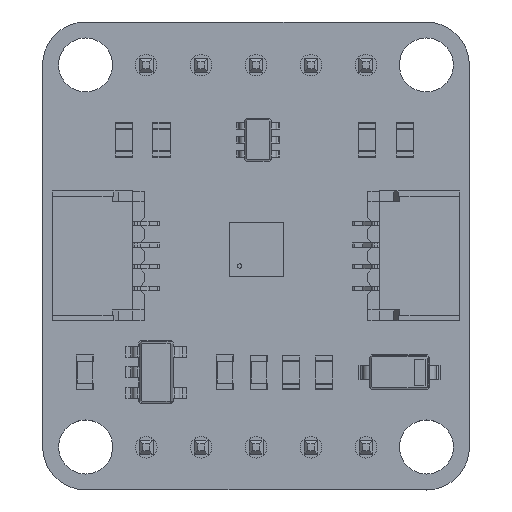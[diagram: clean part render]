
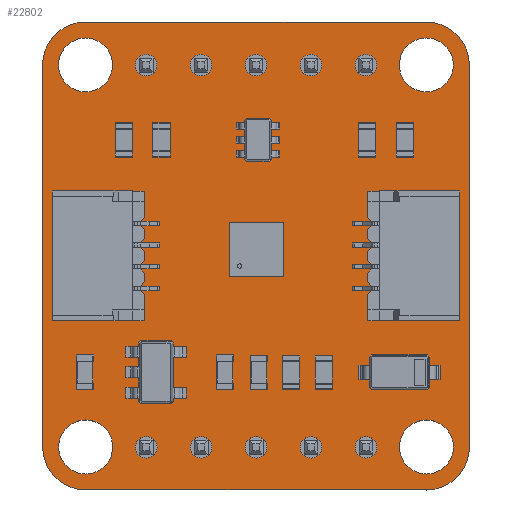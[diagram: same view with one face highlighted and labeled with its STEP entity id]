
A CAD part, top view. The second image highlights one B-rep face of the part: STEP entity #22802.
In plain terms, the highlighted planar face has unit normal (0, 0, 1).
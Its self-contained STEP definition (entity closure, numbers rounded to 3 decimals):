
#22499 = VERTEX_POINT('',#22500);
#22500 = CARTESIAN_POINT('',(154.494,-58.801,1.6));
#22506 = EDGE_CURVE('',#22499,#22507,#22509,.T.);
#22507 = VERTEX_POINT('',#22508);
#22508 = CARTESIAN_POINT('',(156.48,-60.787,1.6));
#22509 = CIRCLE('',#22510,1.986);
#22510 = AXIS2_PLACEMENT_3D('',#22511,#22512,#22513);
#22511 = CARTESIAN_POINT('',(154.494,-60.787,1.6));
#22512 = DIRECTION('',(0.,0.,-1.));
#22513 = DIRECTION('',(0.,1.,0.));
#22541 = VERTEX_POINT('',#22542);
#22542 = CARTESIAN_POINT('',(138.735,-58.801,1.6));
#22548 = EDGE_CURVE('',#22541,#22499,#22549,.T.);
#22549 = LINE('',#22550,#22551);
#22550 = CARTESIAN_POINT('',(138.735,-58.801,1.6));
#22551 = VECTOR('',#22552,1.);
#22552 = DIRECTION('',(1.,0.,0.));
#22570 = EDGE_CURVE('',#22507,#22571,#22573,.T.);
#22571 = VERTEX_POINT('',#22572);
#22572 = CARTESIAN_POINT('',(156.486,-78.452,1.6));
#22573 = LINE('',#22574,#22575);
#22574 = CARTESIAN_POINT('',(156.48,-60.787,1.6));
#22575 = VECTOR('',#22576,1.);
#22576 = DIRECTION('',(0.,-1.,0.));
#22802 = ADVANCED_FACE('',(#22803,#22849,#22860,#22871,#22882,#22893,
    #22904,#22915,#22926,#22937,#22948,#22959,#22970,#22981,#22992),
  #23003,.T.);
#22803 = FACE_BOUND('',#22804,.T.);
#22804 = EDGE_LOOP('',(#22805,#22806,#22807,#22816,#22824,#22833,#22841,
    #22848));
#22805 = ORIENTED_EDGE('',*,*,#22506,.F.);
#22806 = ORIENTED_EDGE('',*,*,#22548,.F.);
#22807 = ORIENTED_EDGE('',*,*,#22808,.F.);
#22808 = EDGE_CURVE('',#22809,#22541,#22811,.T.);
#22809 = VERTEX_POINT('',#22810);
#22810 = CARTESIAN_POINT('',(136.749,-60.787,1.6));
#22811 = CIRCLE('',#22812,1.986);
#22812 = AXIS2_PLACEMENT_3D('',#22813,#22814,#22815);
#22813 = CARTESIAN_POINT('',(138.735,-60.787,1.6));
#22814 = DIRECTION('',(0.,0.,-1.));
#22815 = DIRECTION('',(-1.,0.,-0.));
#22816 = ORIENTED_EDGE('',*,*,#22817,.F.);
#22817 = EDGE_CURVE('',#22818,#22809,#22820,.T.);
#22818 = VERTEX_POINT('',#22819);
#22819 = CARTESIAN_POINT('',(136.755,-78.452,1.6));
#22820 = LINE('',#22821,#22822);
#22821 = CARTESIAN_POINT('',(136.755,-78.452,1.6));
#22822 = VECTOR('',#22823,1.);
#22823 = DIRECTION('',(0.,1.,0.));
#22824 = ORIENTED_EDGE('',*,*,#22825,.F.);
#22825 = EDGE_CURVE('',#22826,#22818,#22828,.T.);
#22826 = VERTEX_POINT('',#22827);
#22827 = CARTESIAN_POINT('',(138.741,-80.438,1.6));
#22828 = CIRCLE('',#22829,1.986);
#22829 = AXIS2_PLACEMENT_3D('',#22830,#22831,#22832);
#22830 = CARTESIAN_POINT('',(138.741,-78.452,1.6));
#22831 = DIRECTION('',(0.,0.,-1.));
#22832 = DIRECTION('',(0.,-1.,-0.));
#22833 = ORIENTED_EDGE('',*,*,#22834,.F.);
#22834 = EDGE_CURVE('',#22835,#22826,#22837,.T.);
#22835 = VERTEX_POINT('',#22836);
#22836 = CARTESIAN_POINT('',(154.5,-80.438,1.6));
#22837 = LINE('',#22838,#22839);
#22838 = CARTESIAN_POINT('',(154.5,-80.438,1.6));
#22839 = VECTOR('',#22840,1.);
#22840 = DIRECTION('',(-1.,0.,0.));
#22841 = ORIENTED_EDGE('',*,*,#22842,.F.);
#22842 = EDGE_CURVE('',#22571,#22835,#22843,.T.);
#22843 = CIRCLE('',#22844,1.986);
#22844 = AXIS2_PLACEMENT_3D('',#22845,#22846,#22847);
#22845 = CARTESIAN_POINT('',(154.5,-78.452,1.6));
#22846 = DIRECTION('',(0.,0.,-1.));
#22847 = DIRECTION('',(1.,0.,0.));
#22848 = ORIENTED_EDGE('',*,*,#22570,.F.);
#22849 = FACE_BOUND('',#22850,.T.);
#22850 = EDGE_LOOP('',(#22851));
#22851 = ORIENTED_EDGE('',*,*,#22852,.T.);
#22852 = EDGE_CURVE('',#22853,#22853,#22855,.T.);
#22853 = VERTEX_POINT('',#22854);
#22854 = CARTESIAN_POINT('',(138.741,-79.702,1.6));
#22855 = CIRCLE('',#22856,1.25);
#22856 = AXIS2_PLACEMENT_3D('',#22857,#22858,#22859);
#22857 = CARTESIAN_POINT('',(138.741,-78.452,1.6));
#22858 = DIRECTION('',(-0.,0.,-1.));
#22859 = DIRECTION('',(-0.,-1.,0.));
#22860 = FACE_BOUND('',#22861,.T.);
#22861 = EDGE_LOOP('',(#22862));
#22862 = ORIENTED_EDGE('',*,*,#22863,.T.);
#22863 = EDGE_CURVE('',#22864,#22864,#22866,.T.);
#22864 = VERTEX_POINT('',#22865);
#22865 = CARTESIAN_POINT('',(141.542,-78.967,1.6));
#22866 = CIRCLE('',#22867,0.5);
#22867 = AXIS2_PLACEMENT_3D('',#22868,#22869,#22870);
#22868 = CARTESIAN_POINT('',(141.542,-78.467,1.6));
#22869 = DIRECTION('',(-0.,0.,-1.));
#22870 = DIRECTION('',(-0.,-1.,0.));
#22871 = FACE_BOUND('',#22872,.T.);
#22872 = EDGE_LOOP('',(#22873));
#22873 = ORIENTED_EDGE('',*,*,#22874,.T.);
#22874 = EDGE_CURVE('',#22875,#22875,#22877,.T.);
#22875 = VERTEX_POINT('',#22876);
#22876 = CARTESIAN_POINT('',(144.082,-78.967,1.6));
#22877 = CIRCLE('',#22878,0.5);
#22878 = AXIS2_PLACEMENT_3D('',#22879,#22880,#22881);
#22879 = CARTESIAN_POINT('',(144.082,-78.467,1.6));
#22880 = DIRECTION('',(-0.,0.,-1.));
#22881 = DIRECTION('',(-0.,-1.,0.));
#22882 = FACE_BOUND('',#22883,.T.);
#22883 = EDGE_LOOP('',(#22884));
#22884 = ORIENTED_EDGE('',*,*,#22885,.T.);
#22885 = EDGE_CURVE('',#22886,#22886,#22888,.T.);
#22886 = VERTEX_POINT('',#22887);
#22887 = CARTESIAN_POINT('',(146.622,-78.967,1.6));
#22888 = CIRCLE('',#22889,0.5);
#22889 = AXIS2_PLACEMENT_3D('',#22890,#22891,#22892);
#22890 = CARTESIAN_POINT('',(146.622,-78.467,1.6));
#22891 = DIRECTION('',(-0.,0.,-1.));
#22892 = DIRECTION('',(-0.,-1.,0.));
#22893 = FACE_BOUND('',#22894,.T.);
#22894 = EDGE_LOOP('',(#22895));
#22895 = ORIENTED_EDGE('',*,*,#22896,.T.);
#22896 = EDGE_CURVE('',#22897,#22897,#22899,.T.);
#22897 = VERTEX_POINT('',#22898);
#22898 = CARTESIAN_POINT('',(149.162,-78.967,1.6));
#22899 = CIRCLE('',#22900,0.5);
#22900 = AXIS2_PLACEMENT_3D('',#22901,#22902,#22903);
#22901 = CARTESIAN_POINT('',(149.162,-78.467,1.6));
#22902 = DIRECTION('',(-0.,0.,-1.));
#22903 = DIRECTION('',(-0.,-1.,0.));
#22904 = FACE_BOUND('',#22905,.T.);
#22905 = EDGE_LOOP('',(#22906));
#22906 = ORIENTED_EDGE('',*,*,#22907,.T.);
#22907 = EDGE_CURVE('',#22908,#22908,#22910,.T.);
#22908 = VERTEX_POINT('',#22909);
#22909 = CARTESIAN_POINT('',(151.702,-78.967,1.6));
#22910 = CIRCLE('',#22911,0.5);
#22911 = AXIS2_PLACEMENT_3D('',#22912,#22913,#22914);
#22912 = CARTESIAN_POINT('',(151.702,-78.467,1.6));
#22913 = DIRECTION('',(-0.,0.,-1.));
#22914 = DIRECTION('',(-0.,-1.,0.));
#22915 = FACE_BOUND('',#22916,.T.);
#22916 = EDGE_LOOP('',(#22917));
#22917 = ORIENTED_EDGE('',*,*,#22918,.T.);
#22918 = EDGE_CURVE('',#22919,#22919,#22921,.T.);
#22919 = VERTEX_POINT('',#22920);
#22920 = CARTESIAN_POINT('',(154.5,-79.702,1.6));
#22921 = CIRCLE('',#22922,1.25);
#22922 = AXIS2_PLACEMENT_3D('',#22923,#22924,#22925);
#22923 = CARTESIAN_POINT('',(154.5,-78.452,1.6));
#22924 = DIRECTION('',(-0.,0.,-1.));
#22925 = DIRECTION('',(-0.,-1.,0.));
#22926 = FACE_BOUND('',#22927,.T.);
#22927 = EDGE_LOOP('',(#22928));
#22928 = ORIENTED_EDGE('',*,*,#22929,.T.);
#22929 = EDGE_CURVE('',#22930,#22930,#22932,.T.);
#22930 = VERTEX_POINT('',#22931);
#22931 = CARTESIAN_POINT('',(138.735,-62.037,1.6));
#22932 = CIRCLE('',#22933,1.25);
#22933 = AXIS2_PLACEMENT_3D('',#22934,#22935,#22936);
#22934 = CARTESIAN_POINT('',(138.735,-60.787,1.6));
#22935 = DIRECTION('',(-0.,0.,-1.));
#22936 = DIRECTION('',(-0.,-1.,0.));
#22937 = FACE_BOUND('',#22938,.T.);
#22938 = EDGE_LOOP('',(#22939));
#22939 = ORIENTED_EDGE('',*,*,#22940,.T.);
#22940 = EDGE_CURVE('',#22941,#22941,#22943,.T.);
#22941 = VERTEX_POINT('',#22942);
#22942 = CARTESIAN_POINT('',(141.537,-61.297,1.6));
#22943 = CIRCLE('',#22944,0.5);
#22944 = AXIS2_PLACEMENT_3D('',#22945,#22946,#22947);
#22945 = CARTESIAN_POINT('',(141.537,-60.797,1.6));
#22946 = DIRECTION('',(-0.,0.,-1.));
#22947 = DIRECTION('',(-0.,-1.,0.));
#22948 = FACE_BOUND('',#22949,.T.);
#22949 = EDGE_LOOP('',(#22950));
#22950 = ORIENTED_EDGE('',*,*,#22951,.T.);
#22951 = EDGE_CURVE('',#22952,#22952,#22954,.T.);
#22952 = VERTEX_POINT('',#22953);
#22953 = CARTESIAN_POINT('',(144.077,-61.297,1.6));
#22954 = CIRCLE('',#22955,0.5);
#22955 = AXIS2_PLACEMENT_3D('',#22956,#22957,#22958);
#22956 = CARTESIAN_POINT('',(144.077,-60.797,1.6));
#22957 = DIRECTION('',(-0.,0.,-1.));
#22958 = DIRECTION('',(-0.,-1.,0.));
#22959 = FACE_BOUND('',#22960,.T.);
#22960 = EDGE_LOOP('',(#22961));
#22961 = ORIENTED_EDGE('',*,*,#22962,.T.);
#22962 = EDGE_CURVE('',#22963,#22963,#22965,.T.);
#22963 = VERTEX_POINT('',#22964);
#22964 = CARTESIAN_POINT('',(146.617,-61.297,1.6));
#22965 = CIRCLE('',#22966,0.5);
#22966 = AXIS2_PLACEMENT_3D('',#22967,#22968,#22969);
#22967 = CARTESIAN_POINT('',(146.617,-60.797,1.6));
#22968 = DIRECTION('',(-0.,0.,-1.));
#22969 = DIRECTION('',(-0.,-1.,0.));
#22970 = FACE_BOUND('',#22971,.T.);
#22971 = EDGE_LOOP('',(#22972));
#22972 = ORIENTED_EDGE('',*,*,#22973,.T.);
#22973 = EDGE_CURVE('',#22974,#22974,#22976,.T.);
#22974 = VERTEX_POINT('',#22975);
#22975 = CARTESIAN_POINT('',(149.157,-61.297,1.6));
#22976 = CIRCLE('',#22977,0.5);
#22977 = AXIS2_PLACEMENT_3D('',#22978,#22979,#22980);
#22978 = CARTESIAN_POINT('',(149.157,-60.797,1.6));
#22979 = DIRECTION('',(-0.,0.,-1.));
#22980 = DIRECTION('',(-0.,-1.,0.));
#22981 = FACE_BOUND('',#22982,.T.);
#22982 = EDGE_LOOP('',(#22983));
#22983 = ORIENTED_EDGE('',*,*,#22984,.T.);
#22984 = EDGE_CURVE('',#22985,#22985,#22987,.T.);
#22985 = VERTEX_POINT('',#22986);
#22986 = CARTESIAN_POINT('',(151.697,-61.297,1.6));
#22987 = CIRCLE('',#22988,0.5);
#22988 = AXIS2_PLACEMENT_3D('',#22989,#22990,#22991);
#22989 = CARTESIAN_POINT('',(151.697,-60.797,1.6));
#22990 = DIRECTION('',(-0.,0.,-1.));
#22991 = DIRECTION('',(-0.,-1.,0.));
#22992 = FACE_BOUND('',#22993,.T.);
#22993 = EDGE_LOOP('',(#22994));
#22994 = ORIENTED_EDGE('',*,*,#22995,.T.);
#22995 = EDGE_CURVE('',#22996,#22996,#22998,.T.);
#22996 = VERTEX_POINT('',#22997);
#22997 = CARTESIAN_POINT('',(154.494,-62.037,1.6));
#22998 = CIRCLE('',#22999,1.25);
#22999 = AXIS2_PLACEMENT_3D('',#23000,#23001,#23002);
#23000 = CARTESIAN_POINT('',(154.494,-60.787,1.6));
#23001 = DIRECTION('',(-0.,0.,-1.));
#23002 = DIRECTION('',(-0.,-1.,0.));
#23003 = PLANE('',#23004);
#23004 = AXIS2_PLACEMENT_3D('',#23005,#23006,#23007);
#23005 = CARTESIAN_POINT('',(0.,0.,1.6));
#23006 = DIRECTION('',(0.,0.,1.));
#23007 = DIRECTION('',(1.,0.,-0.));
